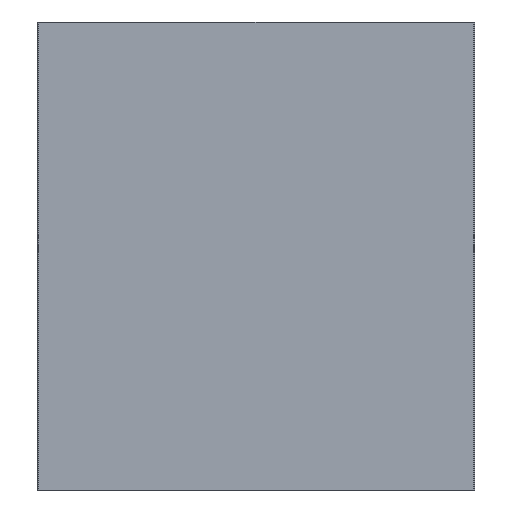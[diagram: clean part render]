
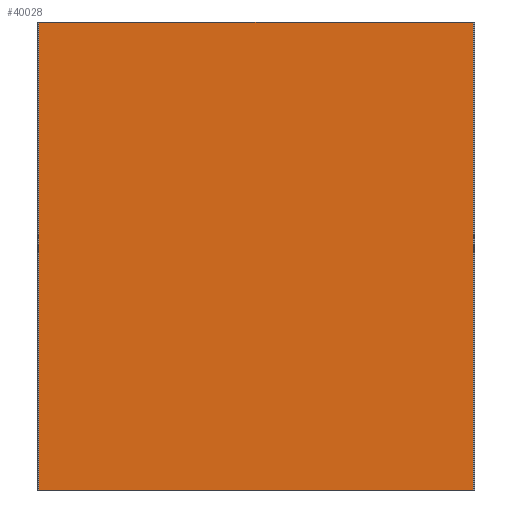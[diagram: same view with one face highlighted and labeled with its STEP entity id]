
A CAD part, front view. The second image highlights one B-rep face of the part: STEP entity #40028.
In plain terms, the highlighted planar face has unit normal (0, -1, 0).
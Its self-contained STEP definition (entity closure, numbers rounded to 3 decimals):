
#1298 = DIRECTION ( 'NONE',  ( 1., 0., 0. ) ) ;
#2078 = EDGE_CURVE ( 'NONE', #15146, #33546, #35093, .T. ) ;
#6161 = ORIENTED_EDGE ( 'NONE', *, *, #2078, .T. ) ;
#6763 = VERTEX_POINT ( 'NONE', #8214 ) ;
#7851 = VECTOR ( 'NONE', #39114, 1000. ) ;
#8064 = CARTESIAN_POINT ( 'NONE',  ( -150., 0., -321. ) ) ;
#8214 = CARTESIAN_POINT ( 'NONE',  ( -149., 0., -321. ) ) ;
#8425 = EDGE_CURVE ( 'NONE', #26535, #33546, #37327, .T. ) ;
#9127 = EDGE_LOOP ( 'NONE', ( #29025, #6161, #40791, #17635 ) ) ;
#10572 = CARTESIAN_POINT ( 'NONE',  ( 149., 0., -321. ) ) ;
#11244 = VECTOR ( 'NONE', #1298, 1000. ) ;
#11927 = CARTESIAN_POINT ( 'NONE',  ( -150., 0., 0. ) ) ;
#15146 = VERTEX_POINT ( 'NONE', #10572 ) ;
#15261 = CARTESIAN_POINT ( 'NONE',  ( -150., 0., -321. ) ) ;
#17635 = ORIENTED_EDGE ( 'NONE', *, *, #37443, .T. ) ;
#18454 = LINE ( 'NONE', #15261, #24770 ) ;
#18840 = EDGE_CURVE ( 'NONE', #6763, #15146, #18454, .T. ) ;
#20218 = CARTESIAN_POINT ( 'NONE',  ( -149., 0., -321. ) ) ;
#22604 = CARTESIAN_POINT ( 'NONE',  ( -149., 0., 0. ) ) ;
#23009 = LINE ( 'NONE', #20218, #28917 ) ;
#24089 = FACE_OUTER_BOUND ( 'NONE', #9127, .T. ) ;
#24499 = DIRECTION ( 'NONE',  ( 0., -1., 0. ) ) ;
#24709 = DIRECTION ( 'NONE',  ( 0., 0., -1. ) ) ;
#24770 = VECTOR ( 'NONE', #31293, 1000. ) ;
#25281 = CARTESIAN_POINT ( 'NONE',  ( 149., 0., -321. ) ) ;
#26535 = VERTEX_POINT ( 'NONE', #22604 ) ;
#28165 = CARTESIAN_POINT ( 'NONE',  ( 149., 0., 0. ) ) ;
#28917 = VECTOR ( 'NONE', #33230, 1000. ) ;
#29025 = ORIENTED_EDGE ( 'NONE', *, *, #18840, .T. ) ;
#31293 = DIRECTION ( 'NONE',  ( 1., 0., 0. ) ) ;
#31342 = PLANE ( 'NONE',  #32107 ) ;
#32107 = AXIS2_PLACEMENT_3D ( 'NONE', #8064, #24499, #24709 ) ;
#33230 = DIRECTION ( 'NONE',  ( 0., 0., -1. ) ) ;
#33546 = VERTEX_POINT ( 'NONE', #28165 ) ;
#35093 = LINE ( 'NONE', #25281, #7851 ) ;
#37327 = LINE ( 'NONE', #11927, #11244 ) ;
#37443 = EDGE_CURVE ( 'NONE', #26535, #6763, #23009, .T. ) ;
#39114 = DIRECTION ( 'NONE',  ( 0., 0., 1. ) ) ;
#40028 = ADVANCED_FACE ( 'NONE', ( #24089 ), #31342, .T. ) ;
#40791 = ORIENTED_EDGE ( 'NONE', *, *, #8425, .F. ) ;
